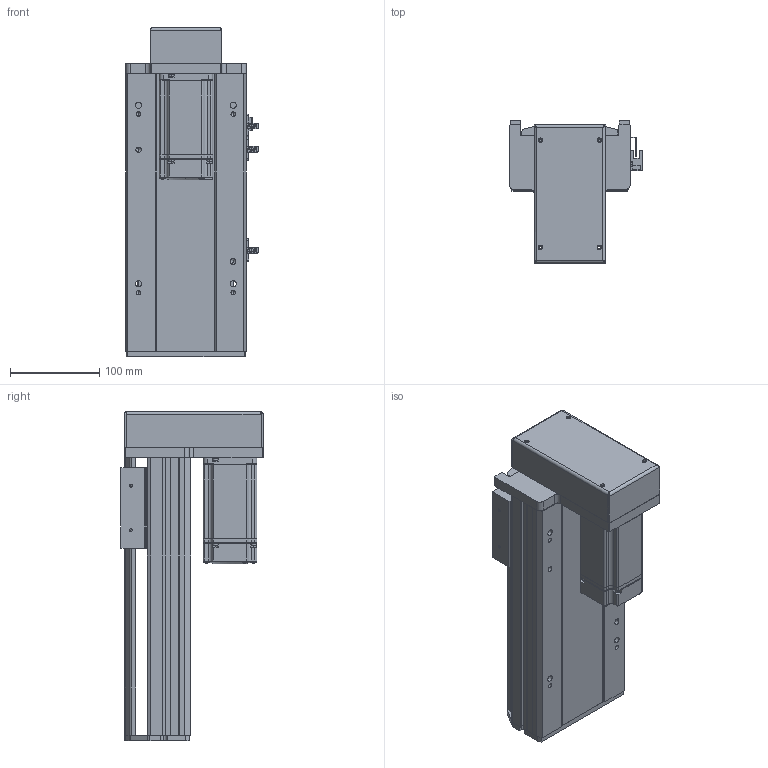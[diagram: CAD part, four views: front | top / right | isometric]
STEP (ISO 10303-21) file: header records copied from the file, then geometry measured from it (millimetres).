
FILE_DESCRIPTION (( 'STEP AP214' ), '1' );
FILE_NAME ('QTH13-150-BM-P40.STEP', '2022-05-24T09:25:45', ( '' ), ( '' ), 'SwSTEP 2.0', 'SolidWorks 2020', '' );
FILE_SCHEMA (( 'AUTOMOTIVE_DESIGN' ));
Length unit declared in the file: millimetre
Products named in the file (6): 葩璃 pm-t65-672^QTH13-BM-P40; QTH13-150-BM-P40; 葩璃 QTH13-BM-001 菁釱MZ-135-01^QTH13-BM-P40; 葩璃 QTH14-BM-002 奻裔MZ-135-02^QTH13-BM-P40; 葩璃 400W^QTH13-BM-P40; 葩璃 QTH13-BC-005 賑釱MZ-135-03^QTH13-BM-P40_SFA16
Assembly tree (7 placements, depth 2):
  QTH13-150-BM-P40
    葩璃 QTH13-BM-001 菁釱MZ-135-01^QTH13-BM-P40
    葩璃 QTH14-BM-002 奻裔MZ-135-02^QTH13-BM-P40
    葩璃 QTH13-BC-005 賑釱MZ-135-03^QTH13-BM-P40_SFA16
    葩璃 pm-t65-672^QTH13-BM-P40  x3
    葩璃 400W^QTH13-BM-P40
Bounding box: 148.7 x 159.1 x 368.5 mm (x, y, z)
Volume: 2937929.4 mm3; surface area: 433788.9 mm2
Topology: 12 solids, 12 shells, 1229 faces, 3270 edges, 2116 vertices
Faces by surface type: plane 727, cylinder 400, cone 76, bspline 26
Entity records: 32606 total; most frequent: CARTESIAN_POINT 6225, DIRECTION 5355, ORIENTED_EDGE 5180, EDGE_CURVE 2590, AXIS2_PLACEMENT_3D 1824, LINE 1707, VECTOR 1707, VERTEX_POINT 1692
